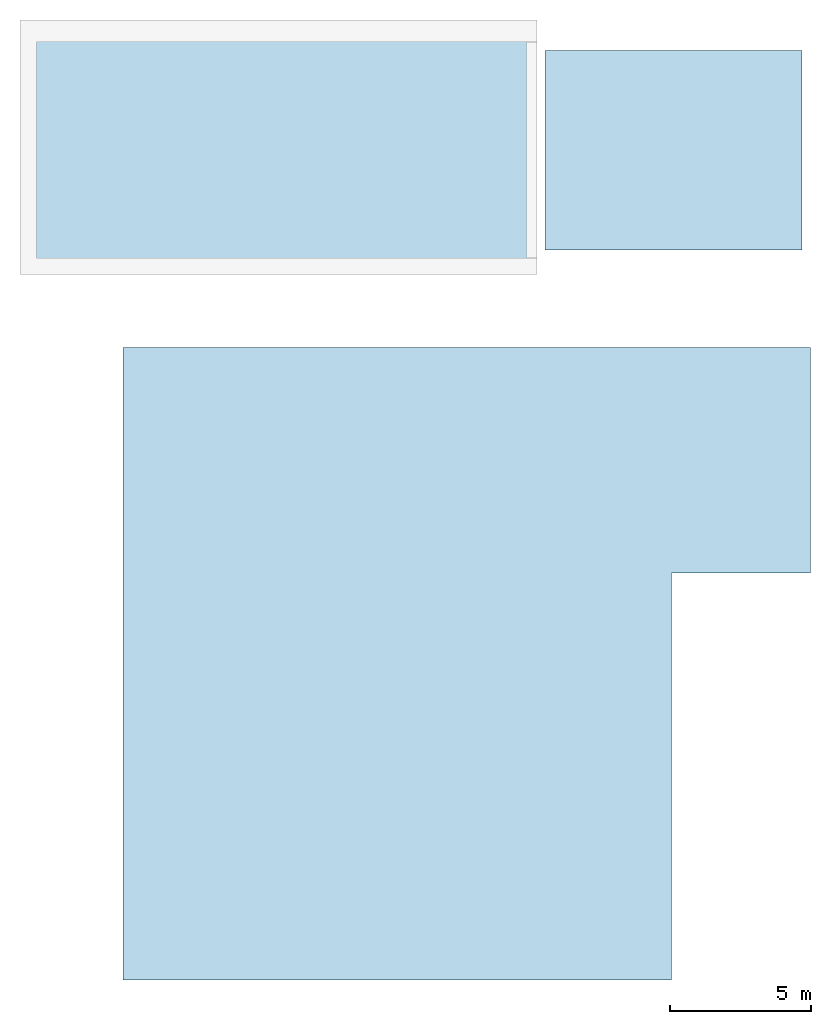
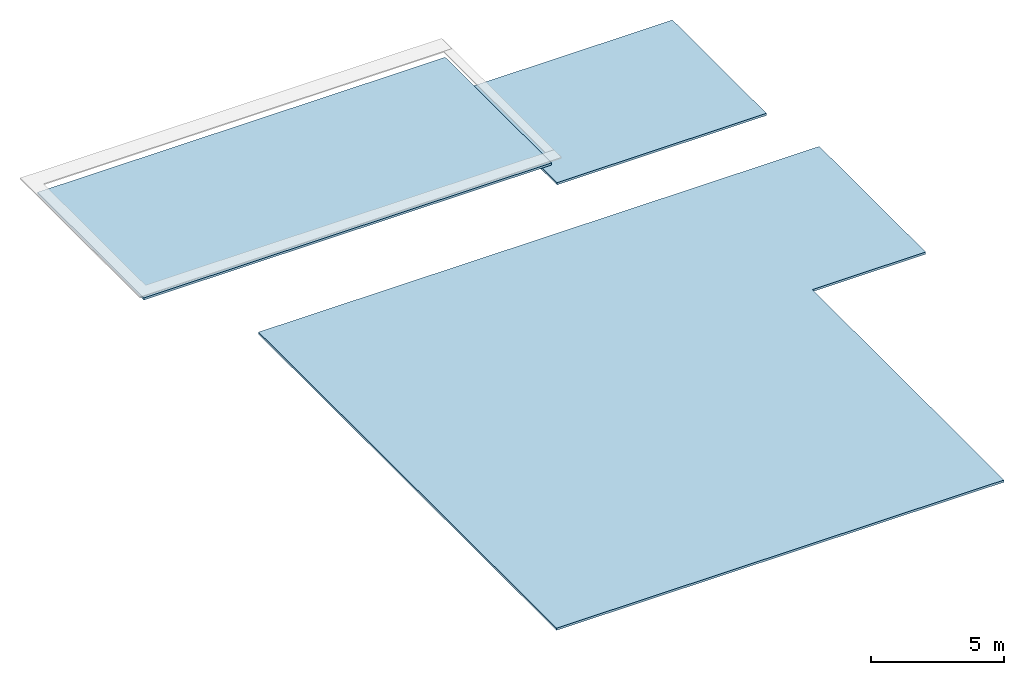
# One storey, part 1 of 2: 3 slabs, 3 elements without a shape of their own.
"""IFC2X3 building model written with IfcOpenShell, lengths in centimetres."""

from ifc_helpers import new_model, entity, si_unit, converted_unit, derived_unit, direction, frame, frame_2d, origin, place, context, subcontext, project, spatial, polyline, rectangle, outline, extrude, material, layer, layer_set, element, aggregate, save


model = new_model("IFC2X3")

# Units and contexts
model_context = context("Model", 3, precision=0.001, world=origin(), true_north=direction((6.12303176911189e-17, 1.0)))
body_context = subcontext(model_context, "Body", "Model", "MODEL_VIEW")
ifc_project = project(units=[si_unit("LENGTHUNIT", "METRE", prefix="CENTI"), si_unit("AREAUNIT", "SQUARE_METRE"), si_unit("VOLUMEUNIT", "CUBIC_METRE"), converted_unit("PLANEANGLEUNIT", "DEGREE", entity("IfcRatioMeasure", 0.0174532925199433), si_unit("PLANEANGLEUNIT", "RADIAN"), dimensions=[0, 0, 0, 0, 0, 0, 0]), si_unit("MASSUNIT", "GRAM", prefix="KILO"), derived_unit("MASSDENSITYUNIT", [(si_unit("MASSUNIT", "GRAM", prefix="KILO"), 1), (si_unit("LENGTHUNIT", "METRE"), -3)]), si_unit("TIMEUNIT", "SECOND"), si_unit("FREQUENCYUNIT", "HERTZ"), si_unit("THERMODYNAMICTEMPERATUREUNIT", "DEGREE_CELSIUS"), derived_unit("THERMALTRANSMITTANCEUNIT", [(si_unit("MASSUNIT", "GRAM", prefix="KILO"), 1), (si_unit("THERMODYNAMICTEMPERATUREUNIT", "KELVIN"), -1), (si_unit("TIMEUNIT", "SECOND"), -3)]), derived_unit("VOLUMETRICFLOWRATEUNIT", [(si_unit("LENGTHUNIT", "METRE"), 3), (si_unit("TIMEUNIT", "SECOND"), -1)]), si_unit("ELECTRICCURRENTUNIT", "AMPERE"), si_unit("ELECTRICVOLTAGEUNIT", "VOLT"), si_unit("POWERUNIT", "WATT"), si_unit("FORCEUNIT", "NEWTON", prefix="KILO"), si_unit("ILLUMINANCEUNIT", "LUX"), si_unit("LUMINOUSFLUXUNIT", "LUMEN"), si_unit("LUMINOUSINTENSITYUNIT", "CANDELA"), derived_unit("USERDEFINED", [(si_unit("MASSUNIT", "GRAM", prefix="KILO"), -1), (si_unit("LENGTHUNIT", "METRE"), -2), (si_unit("TIMEUNIT", "SECOND"), 3), (si_unit("LUMINOUSFLUXUNIT", "LUMEN"), 1)]), derived_unit("LINEARVELOCITYUNIT", [(si_unit("LENGTHUNIT", "METRE"), 1), (si_unit("TIMEUNIT", "SECOND"), -1)]), si_unit("PRESSUREUNIT", "PASCAL"), derived_unit("USERDEFINED", [(si_unit("LENGTHUNIT", "METRE"), -2), (si_unit("MASSUNIT", "GRAM", prefix="KILO"), 1), (si_unit("TIMEUNIT", "SECOND"), -2)])], contexts=[model_context])

# Site, building, storey
site_placement = place(None, frame((-2781.94577612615, 7442.24238424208, 0.0)))
site = spatial("IfcSite", under=ifc_project, at=site_placement, Name="Default", CompositionType="ELEMENT")
building_placement = place(site_placement, origin())
building = spatial("IfcBuilding", under=site, at=building_placement, CompositionType="ELEMENT")
storey_placement = place(building_placement, frame((0.0, 0.0, 490.0)))
storey = spatial("IfcBuildingStorey", under=building, at=storey_placement, Name="Toiture - Maintenance", CompositionType="ELEMENT", Elevation=489.999999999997)

# Roof, slab
roof_1_placement = place(storey_placement, frame((-10865.6130476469, -3352.52180651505, -141.0)))
roof_1 = element("IfcRoof", 1, at=roof_1_placement, inside=storey, Name="Toit de base:03 - gravillons", ObjectType="Toit de base:03 - gravillons", ShapeType="NOTDEFINED")
ifc_material = material(Name="Gravillons")
ifc_layer = layer(ifc_material, 10.0)
ifc_layer_set = layer_set([ifc_layer], Name="Toit de base:03 - gravillons")
slab_1_placement = place(roof_1_placement, origin())
slab_1 = element("IfcSlab", 2, at=slab_1_placement, material=ifc_layer_set, Name="Toit de base:03 - gravillons", ObjectType="Toit de base:03 - gravillons", PredefinedType="ROOF", context=body_context, shape_type="SweptSolid", body=[
    extrude(outline(polyline([(-1218.05658498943, 1121.26090330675), (-1218.05658498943, -1121.26090330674), (725.6242826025, -1121.26090330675), (725.6242826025, 321.181869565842), (1218.05658498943, 321.181869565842), (1218.05658498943, 1121.26090330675), (-1218.05658498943, 1121.26090330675)])), frame((1218.05658498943, 1121.26090330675, 0.0)), (0.0, 0.0, 1.0), 10.0),
])
aggregate(roof_1, [slab_1])

roof_2_placement = place(storey_placement, frame((-11190.6616968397, -810.048500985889, -52.0)))
roof_2 = element("IfcRoof", 3, at=roof_2_placement, inside=storey, Name="Toit de base:03 - gravillons", ObjectType="Toit de base:03 - gravillons", ShapeType="NOTDEFINED")
slab_2_placement = place(roof_2_placement, origin())
slab_2 = element("IfcSlab", 4, at=slab_2_placement, material=ifc_layer_set, Name="Toit de base:03 - gravillons", ObjectType="Toit de base:03 - gravillons", PredefinedType="ROOF", context=body_context, shape_type="SweptSolid", body=[
    extrude(rectangle(XDim=1771.16181917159, YDim=800.048500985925, at=frame_2d((8.5265128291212e-13, 0.0), x_axis=(1.0, 0.0))), frame((885.580909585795, 400.024250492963, 0.0)), (0.0, 0.0, 1.0), 10.0),
])
aggregate(roof_2, [slab_2])

roof_3_placement = place(storey_placement, frame((-9369.49987766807, -764.04850098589, -188.499999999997)))
roof_3 = element("IfcRoof", 5, at=roof_3_placement, inside=storey, Name="Toit de base:03 - gravillons", ObjectType="Toit de base:03 - gravillons", ShapeType="NOTDEFINED")
slab_3_placement = place(roof_3_placement, origin())
slab_3 = element("IfcSlab", 6, at=slab_3_placement, material=ifc_layer_set, Name="Toit de base:03 - gravillons", ObjectType="Toit de base:03 - gravillons", PredefinedType="ROOF", context=body_context, shape_type="SweptSolid", body=[
    extrude(rectangle(XDim=909.999999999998, YDim=707.048500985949, at=frame_2d((0.0, -5.6843418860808e-14), x_axis=(1.0, 0.0))), frame((455.0, 353.524250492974, 0.0)), (0.0, 0.0, 1.0), 10.0),
])
aggregate(roof_3, [slab_3])

save(model, "model.ifc")
